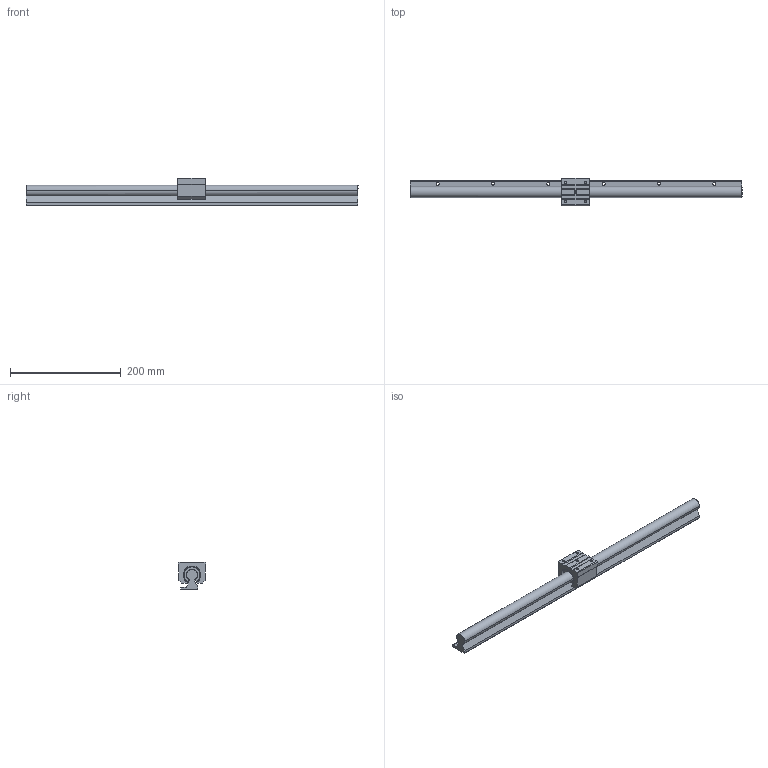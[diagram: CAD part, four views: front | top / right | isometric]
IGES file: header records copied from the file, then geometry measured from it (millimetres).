
Global section: file name: No Iges File Name specified; native system: AutoDesk Inventor R10; preprocessor: AutoDesk Inventor Iges Exporter R10; author: No Author specified; organization: No Organization specified; date: 20101221.091345; units: millimetre
Bounding box: 600 x 50 x 50 mm (x, y, z)
Surface area: 97703.9 mm2 (no closed solid volume)
Topology: 0 solids, 0 shells, 219 faces, 1422 edges, 1400 vertices
Faces by surface type: bspline 219
